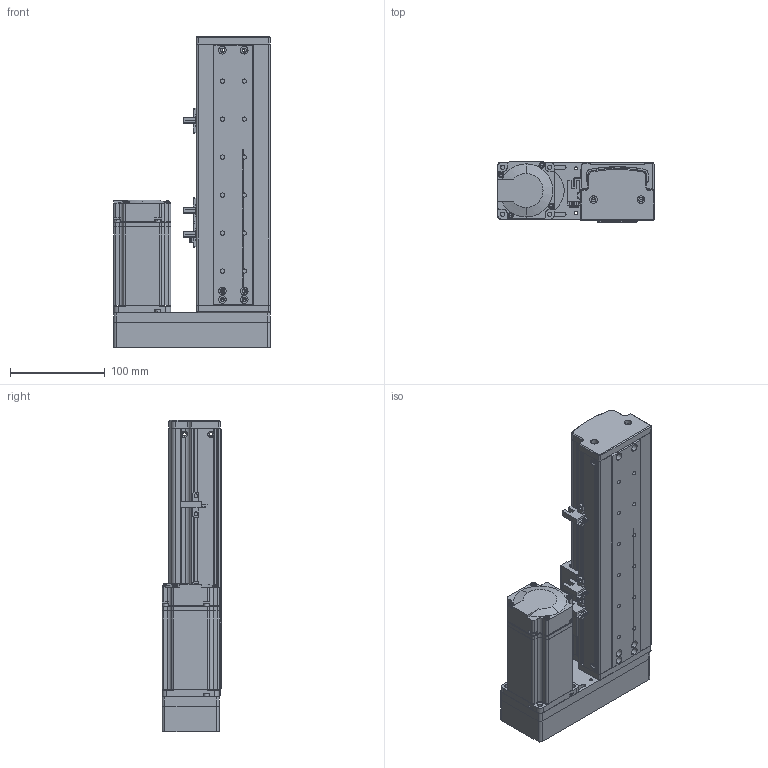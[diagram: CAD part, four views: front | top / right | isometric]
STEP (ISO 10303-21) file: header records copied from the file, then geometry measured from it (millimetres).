
FILE_DESCRIPTION (( 'STEP AP214' ), '1' );
FILE_NAME ('KSD75S-S120-MR-CM.STEP', '2019-10-18T07:12:16', ( '微软用户' ), ( '微软中国' ), 'SwSTEP 2.0', 'SolidWorks 2014', '' );
FILE_SCHEMA (( 'AUTOMOTIVE_DESIGN' ));
Length unit declared in the file: millimetre
Products named in the file (13): MHMD042G1CA_2_03; 75宽模组保护罩左右折; 75宽马达安装板连板左右折丝杆; 覜茼え100遵圉猾敕; U倰嫖萇EEㄜSX672; 綴傷啣 ; ヶ傷啣; 75裔啣-120俴最; 75遵耀郪耜啣-120俴最; 75遵賑雄釱; MGW15H賑寢120俴最 ; MGW15H賑寢120俴最; KSD75S-S120-MR-CM
Assembly tree (15 placements, depth 3):
  KSD75S-S120-MR-CM
    MGW15H賑寢120俴最 
      MGW15H賑寢120俴最
    75遵賑雄釱
    75遵耀郪耜啣-120俴最  x2
    75裔啣-120俴最
    ヶ傷啣
    綴傷啣 
    U倰嫖萇EEㄜSX672  x3
    覜茼え100遵圉猾敕
    75宽马达安装板连板左右折丝杆
    75宽模组保护罩左右折
    MHMD042G1CA_2_03
Bounding box: 165 x 63 x 327.5 mm (x, y, z)
Volume: 575709.8 mm3; surface area: 359951.1 mm2
Topology: 13 solids, 14 shells, 1393 faces, 3970 edges, 2589 vertices
Faces by surface type: cylinder 635, plane 611, cone 129, bspline 18
Entity records: 44762 total; most frequent: CARTESIAN_POINT 8568, DIRECTION 6584, ORIENTED_EDGE 6220, EDGE_CURVE 3181, AXIS2_PLACEMENT_3D 2384, VERTEX_POINT 2107, LINE 1816, VECTOR 1816
